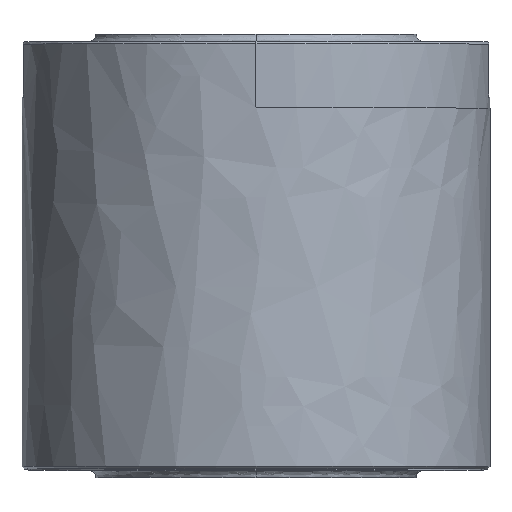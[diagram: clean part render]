
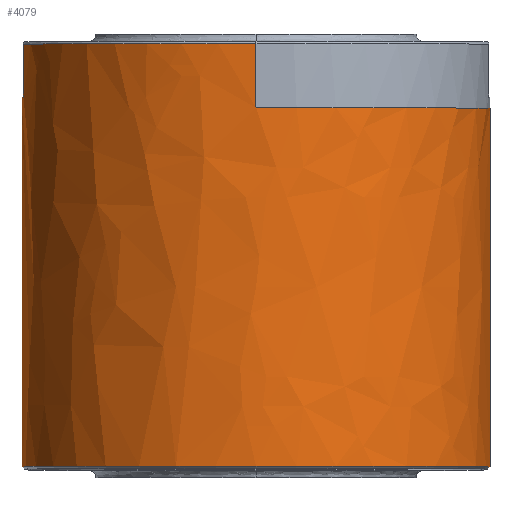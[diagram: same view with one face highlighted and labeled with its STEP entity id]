
A CAD part, top view. The second image highlights one B-rep face of the part: STEP entity #4079.
In plain terms, the highlighted free-form (B-spline) face has degree [11, 1] with [12, 2] control points.
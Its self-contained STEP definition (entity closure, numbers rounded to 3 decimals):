
#141=CARTESIAN_POINT('',(0.,74.8,0.));
#142=DIRECTION('',(0.,-1.,0.));
#143=DIRECTION('',(1.,0.,0.));
#144=AXIS2_PLACEMENT_3D('',#141,#142,#143);
#191=CARTESIAN_POINT('',(-94.4,100.8,10.66));
#201=CARTESIAN_POINT('',(-94.4,100.8,-10.66));
#221=DIRECTION('',(0.,-1.,0.));
#222=VECTOR('',#221,21.488);
#223=CARTESIAN_POINT('',(-94.4,100.8,-10.66));
#224=LINE('',#223,#222);
#225=CARTESIAN_POINT('',(0.,79.312,0.));
#226=DIRECTION('',(0.,-1.,0.));
#227=DIRECTION('',(-0.994,0.,0.112));
#228=AXIS2_PLACEMENT_3D('',#225,#226,#227);
#230=DIRECTION('',(0.,-1.,0.));
#231=VECTOR('',#230,21.488);
#232=CARTESIAN_POINT('',(-94.4,100.8,10.66));
#233=LINE('',#232,#231);
#234=CARTESIAN_POINT('',(0.,100.8,0.));
#235=DIRECTION('',(0.,1.,0.));
#236=DIRECTION('',(-0.994,0.,0.112));
#237=AXIS2_PLACEMENT_3D('',#234,#235,#236);
#239=DIRECTION('',(0.,1.,0.));
#240=VECTOR('',#239,26.);
#241=CARTESIAN_POINT('',(0.,74.8,95.));
#242=LINE('',#241,#240);
#243=DIRECTION('',(0.,1.,0.));
#244=VECTOR('',#243,145.5);
#245=CARTESIAN_POINT('',(95.,-70.7,
0.));
#246=LINE('',#245,#244);
#247=CARTESIAN_POINT('',(0.,-70.7,0.));
#248=DIRECTION('',(0.,1.,0.));
#249=DIRECTION('',(-1.,0.,0.));
#250=AXIS2_PLACEMENT_3D('',#247,#248,#249);
#252=DIRECTION('',(0.,1.,0.));
#253=VECTOR('',#252,145.5);
#254=CARTESIAN_POINT('',(-95.,-70.7,
0.));
#255=LINE('',#254,#253);
#256=CARTESIAN_POINT('',(0.,74.8,0.));
#257=DIRECTION('',(0.,-1.,0.));
#258=DIRECTION('',(-1.,0.,0.));
#259=AXIS2_PLACEMENT_3D('',#256,#257,#258);
#261=DIRECTION('',(0.,1.,0.));
#262=VECTOR('',#261,26.);
#263=CARTESIAN_POINT('',(0.,74.8,-95.));
#264=LINE('',#263,#262);
#265=CARTESIAN_POINT('',(0.,100.8,0.));
#266=DIRECTION('',(0.,1.,0.));
#267=DIRECTION('',(0.,0.,-1.));
#268=AXIS2_PLACEMENT_3D('',#265,#266,#267);
#2979=CARTESIAN_POINT('',(0.,100.8,
95.));
#2980=VERTEX_POINT('',#2979);
#2981=CARTESIAN_POINT('',(0.,100.8,
-95.));
#2982=VERTEX_POINT('',#2981);
#2997=VERTEX_POINT('',#191);
#2998=VERTEX_POINT('',#201);
#3151=CARTESIAN_POINT('',(95.,-70.7,0.));
#3152=CARTESIAN_POINT('',(-95.,-70.7,0.));
#3153=VERTEX_POINT('',#3151);
#3154=VERTEX_POINT('',#3152);
#3159=CARTESIAN_POINT('',(95.,74.8,0.));
#3160=CARTESIAN_POINT('',(0.,74.8,95.));
#3161=VERTEX_POINT('',#3159);
#3162=VERTEX_POINT('',#3160);
#3163=CARTESIAN_POINT('',(-95.,74.8,0.));
#3164=CARTESIAN_POINT('',(0.,74.8,-95.));
#3165=VERTEX_POINT('',#3163);
#3166=VERTEX_POINT('',#3164);
#3591=CARTESIAN_POINT('',(-94.4,79.312,-10.66));
#3592=CARTESIAN_POINT('',(-94.4,79.312,10.66));
#3593=VERTEX_POINT('',#3591);
#3594=VERTEX_POINT('',#3592);
#4039=CARTESIAN_POINT('',(94.578,104.23,-8.94));
#4040=CARTESIAN_POINT('',(94.578,-74.13,-8.94));
#4041=CARTESIAN_POINT('',(98.562,104.23,33.198));
#4042=CARTESIAN_POINT('',(98.562,-74.13,33.198));
#4043=CARTESIAN_POINT('',(81.893,104.23,77.288));
#4044=CARTESIAN_POINT('',(81.893,-74.13,77.288));
#4045=CARTESIAN_POINT('',(43.508,104.23,112.088));
#4046=CARTESIAN_POINT('',(43.508,-74.13,112.088));
#4047=CARTESIAN_POINT('',(-10.749,104.23,125.678));
#4048=CARTESIAN_POINT('',(-10.749,-74.13,125.678));
#4049=CARTESIAN_POINT('',(-67.767,104.23,110.411));
#4050=CARTESIAN_POINT('',(-67.767,-74.13,110.411));
#4051=CARTESIAN_POINT('',(-110.397,104.23,67.753));
#4052=CARTESIAN_POINT('',(-110.397,-74.13,67.753));
#4053=CARTESIAN_POINT('',(-125.687,104.23,10.758));
#4054=CARTESIAN_POINT('',(-125.687,-74.13,10.758));
#4055=CARTESIAN_POINT('',(-112.085,104.23,-43.511));
#4056=CARTESIAN_POINT('',(-112.085,-74.13,-43.511));
#4057=CARTESIAN_POINT('',(-77.288,104.23,-81.893));
#4058=CARTESIAN_POINT('',(-77.288,-74.13,-81.893));
#4059=CARTESIAN_POINT('',(-33.198,104.23,-98.562));
#4060=CARTESIAN_POINT('',(-33.198,-74.13,-98.562));
#4061=CARTESIAN_POINT('',(8.94,104.23,-94.578));
#4062=CARTESIAN_POINT('',(8.94,-74.13,-94.578));
#4063=B_SPLINE_SURFACE_WITH_KNOTS('',11,1,((#4039,#4040),(#4041,#4042),(#4043,
#4044),(#4045,#4046),(#4047,#4048),(#4049,#4050),(#4051,#4052),(#4053,#4054),(
#4055,#4056),(#4057,#4058),(#4059,#4060),(#4061,#4062)),.UNSPECIFIED.,.F.,.F.,
.F.,(12,12),(2,2),(-7.948,-3.047),(9.57,187.93),
.UNSPECIFIED.);
#4064=ORIENTED_EDGE('',*,*,#4014,.T.);
#4065=ORIENTED_EDGE('',*,*,#4034,.F.);
#4066=ORIENTED_EDGE('',*,*,#4017,.F.);
#4067=ORIENTED_EDGE('',*,*,#4002,.T.);
#4068=ORIENTED_EDGE('',*,*,#3889,.F.);
#4069=ORIENTED_EDGE('',*,*,#3887,.F.);
#4070=ORIENTED_EDGE('',*,*,#3885,.F.);
#4072=ORIENTED_EDGE('',*,*,#4071,.F.);
#4073=ORIENTED_EDGE('',*,*,#3882,.T.);
#4074=ORIENTED_EDGE('',*,*,#3880,.T.);
#4075=ORIENTED_EDGE('',*,*,#3878,.T.);
#4076=ORIENTED_EDGE('',*,*,#3996,.T.);
#4077=EDGE_LOOP('',(#4064,#4065,#4066,#4067,#4068,#4069,#4070,#4072,#4073,#4074,
#4075,#4076));
#4078=FACE_OUTER_BOUND('',#4077,.F.);
#4079=ADVANCED_FACE('',(#4078),#4063,.T.);
#145=CIRCLE('',#144,95.);
#229=CIRCLE('',#228,95.);
#238=CIRCLE('',#237,95.);
#251=CIRCLE('',#250,95.);
#260=CIRCLE('',#259,95.);
#269=CIRCLE('',#268,95.);
#3878=EDGE_CURVE('',#3166,#2982,#264,.T.);
#3880=EDGE_CURVE('',#3165,#3166,#260,.T.);
#3882=EDGE_CURVE('',#3154,#3165,#255,.T.);
#3885=EDGE_CURVE('',#3153,#3161,#246,.T.);
#3887=EDGE_CURVE('',#3161,#3162,#145,.T.);
#3889=EDGE_CURVE('',#3162,#2980,#242,.T.);
#3996=EDGE_CURVE('',#2982,#2998,#269,.T.);
#4002=EDGE_CURVE('',#2997,#2980,#238,.T.);
#4014=EDGE_CURVE('',#2998,#3593,#224,.T.);
#4017=EDGE_CURVE('',#2997,#3594,#233,.T.);
#4034=EDGE_CURVE('',#3594,#3593,#229,.T.);
#4071=EDGE_CURVE('',#3154,#3153,#251,.T.);
